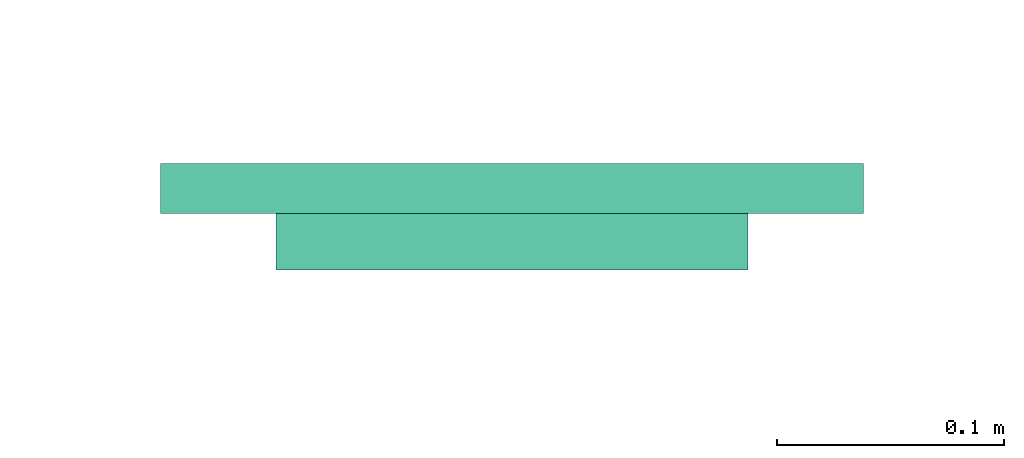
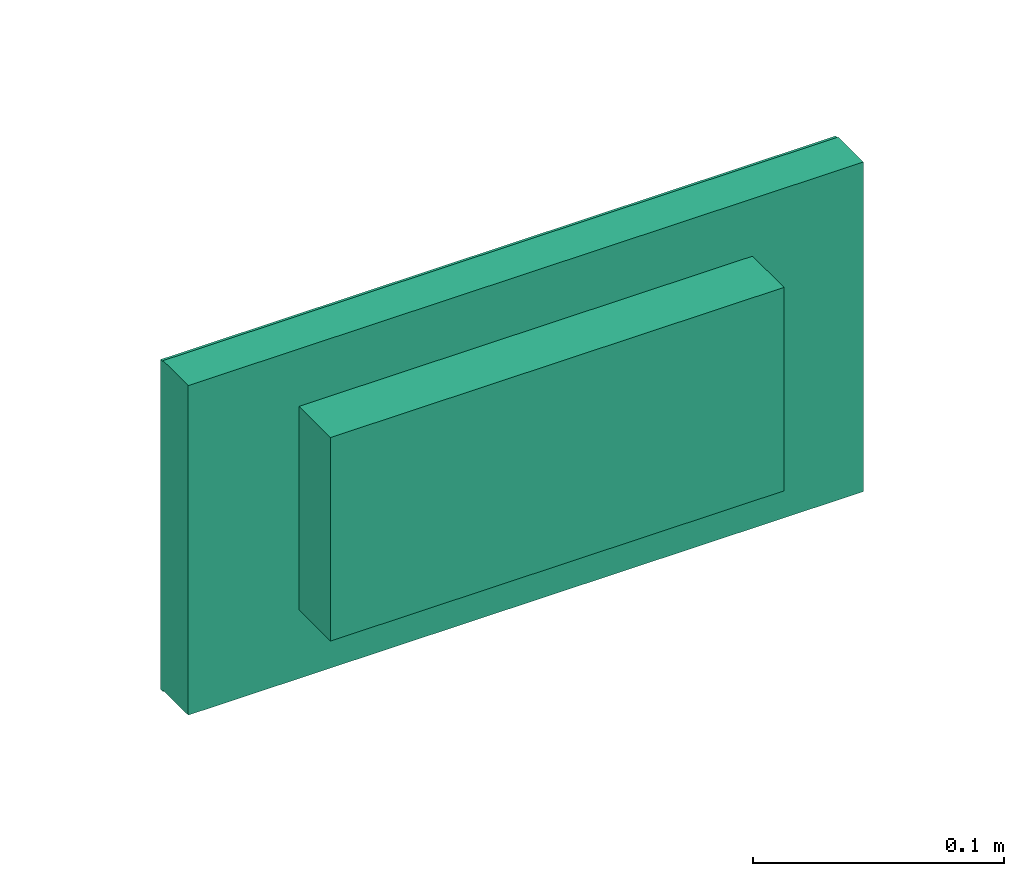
# One storey, part 48 of 51: 1 flow terminal.
"""IFC2X3 building model written with IfcOpenShell, lengths in millimetres."""

from ifc_helpers import new_model, entity, si_unit, converted_unit, derived_unit, direction, frame, origin_with_axes, place, context, subcontext, project, spatial, open_shell, surface_model, source, transform, mapped, type_object, element, save


model = new_model("IFC2X3")

# Units and contexts
model_context = context("Model", 3, precision=0.01, world=frame((0.0, 4.29681676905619e-09, 0.0)), true_north=direction((4.01073788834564e-13, 1.0)))
plan_context = context("Plan", 3, precision=0.01, world=frame((0.0, 4.29681676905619e-09, 0.0)), true_north=direction((4.01073788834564e-13, 1.0)))
body_context = subcontext(model_context, "Body", "Model", "MODEL_VIEW")
ifc_project = project(units=[converted_unit("PLANEANGLEUNIT", "DEGREE", entity("IfcPositiveLengthMeasure", 0.0174532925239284), si_unit("PLANEANGLEUNIT", "RADIAN"), dimensions=[0, 0, 0, 0, 0, 0, 0]), si_unit("AREAUNIT", "SQUARE_METRE"), si_unit("LENGTHUNIT", "METRE", prefix="MILLI"), si_unit("MASSUNIT", "GRAM", prefix="KILO"), si_unit("POWERUNIT", "WATT"), si_unit("PRESSUREUNIT", "PASCAL"), si_unit("FORCEUNIT", "NEWTON", prefix="KILO"), si_unit("ELECTRICVOLTAGEUNIT", "VOLT"), si_unit("ELECTRICCURRENTUNIT", "AMPERE"), si_unit("THERMODYNAMICTEMPERATUREUNIT", "DEGREE_CELSIUS"), si_unit("TIMEUNIT", "SECOND"), si_unit("VOLUMEUNIT", "CUBIC_METRE"), derived_unit("LINEARVELOCITYUNIT", [(si_unit("LENGTHUNIT", "METRE"), 1), (si_unit("TIMEUNIT", "SECOND"), -1)]), derived_unit("VOLUMETRICFLOWRATEUNIT", [(si_unit("VOLUMEUNIT", "CUBIC_METRE"), 1), (si_unit("TIMEUNIT", "SECOND"), -1)]), derived_unit("THERMALTRANSMITTANCEUNIT", [(si_unit("POWERUNIT", "WATT"), 1), (si_unit("THERMODYNAMICTEMPERATUREUNIT", "KELVIN"), -1), (si_unit("AREAUNIT", "SQUARE_METRE"), -1)]), derived_unit("SOUNDPRESSUREUNIT", [(si_unit("PRESSUREUNIT", "PASCAL"), 1)])], contexts=[model_context, plan_context])

# Site, building, storey
site_placement = place(None, frame((0.0, -4.29681676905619e-09, 0.0), z_axis=(0.0, 0.0, 1.0), x_axis=(1.0, 0.0, 0.0)))
site = spatial("IfcSite", under=ifc_project, at=site_placement, Name="ENGM", CompositionType="ELEMENT")
building_placement = place(site_placement, frame((0.0, 4.29681676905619e-09, 0.0), z_axis=(0.0, 0.0, 1.0), x_axis=(1.0, 0.0, 0.0)))
building = spatial("IfcBuilding", under=site, at=building_placement, Name="TI", CompositionType="ELEMENT")
storey_placement = place(building_placement, frame((0.0, 0.0, 210900.0), z_axis=(0.0, 0.0, 1.0), x_axis=(1.0, 0.0, 0.0)))
storey = spatial("IfcBuildingStorey", under=building, at=storey_placement, Name="Nivå F", CompositionType="ELEMENT", Elevation=210900.0)

# Flow terminal
light_fixture_type = type_object("IfcLightFixtureType", Name="IB7333 Zumtobel Puresign 150 AW NDA", PredefinedType="NOTDEFINED")
shared_shape = source(origin_with_axes(), body_context, "Body", "SurfaceModel", [
    surface_model("IfcShellBasedSurfaceModel", [(-81.53868, 69.0, 59.87741), (-54.46132, 69.0, 59.87741), (-54.46132, 69.0, -16.44284), (-27.10707, 69.0, -19.68761), (-68.0, 69.0, -60.58054), (-27.10707, 69.0, 10.91141), (-81.53868, 69.0, -16.44284), (-108.89293, 69.0, -19.68761), (-108.89293, 69.0, 10.91141), (-81.53868, 67.0, -16.44284), (-68.0, 67.0, -60.58054), (-54.46132, 67.0, -16.44284), (-108.89293, 67.0, -19.68761), (-108.89293, 67.0, 10.91141), (-27.10707, 67.0, -19.68761), (-81.53868, 67.0, 59.87741), (-54.46132, 67.0, 59.87741), (-27.10707, 67.0, 10.91141), (-128.62178, 69.0, -35.35156), (-135.61481, 69.0, -18.4689), (-117.49747, 69.0, -49.84904), (-138.0, 69.0, -0.35156), (-135.61481, 69.0, 17.76577), (-128.62178, 69.0, 34.64844), (-103.0, 69.0, -60.97334), (-86.11734, 69.0, -67.96637), (-68.0, 69.0, -70.35156), (-49.88267, 69.0, -67.96637), (-33.0, 69.0, -60.97334), (-117.49747, 69.0, 49.14591), (-103.0, 69.0, 60.27022), (-86.11734, 69.0, 67.26325), (-68.0, 69.0, 69.64844), (-49.88267, 69.0, 67.26325), (-33.0, 69.0, 60.27022), (-0.38519, 69.0, -18.4689), (-7.37822, 69.0, -35.35156), (2.0, 69.0, -0.35156), (-18.50252, 69.0, -49.84904), (-18.50252, 69.0, 49.14591), (-7.37822, 69.0, 34.64844), (-0.38519, 69.0, 17.76577), (-49.88267, 67.0, 67.26325), (-68.0, 67.0, 69.64844), (-33.0, 67.0, 60.27022), (-103.0, 67.0, 60.27022), (-86.11734, 67.0, 67.26325), (-0.38519, 67.0, 17.76577), (-7.37822, 67.0, 34.64844), (2.0, 67.0, -0.35156), (-18.50252, 67.0, 49.14591), (-0.38519, 67.0, -18.4689), (-7.37822, 67.0, -35.35156), (-18.50252, 67.0, -49.84904), (-117.49747, 67.0, 49.14591), (-128.62178, 67.0, 34.64844), (-135.61481, 67.0, 17.76577), (-138.0, 67.0, -0.35156), (-135.61481, 67.0, -18.4689), (-128.62178, 67.0, -35.35156), (-117.49747, 67.0, -49.84904), (-103.0, 67.0, -60.97334), (-33.0, 67.0, -60.97334), (-86.11734, 67.0, -67.96637), (-49.88267, 67.0, -67.96637), (-68.0, 67.0, -70.35156), (-155.0, 69.0, -80.35156), (29.54747, 69.0, -54.89348), (40.0, 69.0, -61.174), (155.0, 69.0, -80.35156), (-155.0, 69.0, 79.64844), (10.0, 69.0, 1.64844), (10.0, 69.0, 13.64844), (40.0, 69.0, 1.64844), (28.0, 69.0, 26.85954), (58.20469, 69.0, -7.19985), (68.0, 69.0, -46.35156), (68.0, 69.0, -14.57417), (110.0, 69.0, -46.35156), (110.0, 69.0, -34.35156), (80.0, 69.0, -2.93515), (80.0, 69.0, -34.35156), (155.0, 69.0, 79.64844), (28.0, 69.0, 13.64844), (88.85504, 69.0, 8.56146), (99.14496, 69.0, 14.73541), (78.60286, 69.0, 25.64844), (65.7082, 69.0, 25.64844), (38.37653, 69.0, 38.12548), (42.6718, 69.0, 36.64074), (40.0, 69.0, 21.92766), (29.87565, 69.0, 44.64844), (28.0, 69.0, 51.64844), (28.47704, 69.0, 55.2719), (29.87565, 69.0, 58.64844), (28.47704, 69.0, 48.02497), (35.0, 69.0, 39.52408), (32.1005, 69.0, 41.74894), (42.0, 69.0, 65.64844), (32.1005, 69.0, 61.54793), (35.0, 69.0, 63.77279), (38.37653, 69.0, 65.1714), (42.0, 69.0, 37.64844), (45.62347, 69.0, 38.12548), (46.0, 69.0, 37.64844), (49.0, 69.0, 39.52408), (85.39714, 69.0, 37.64844), (51.89949, 69.0, 41.74894), (54.12435, 69.0, 44.64844), (55.52296, 69.0, 48.02497), (51.89949, 69.0, 61.54793), (49.0, 69.0, 63.77279), (45.62347, 69.0, 65.1714), (55.52296, 69.0, 55.2719), (56.0, 69.0, 51.64844), (54.12435, 69.0, 58.64844), (155.0, 67.0, 79.64844), (-155.0, 67.0, 79.64844), (42.0, 67.0, 65.64844), (35.0, 67.0, 63.77279), (29.87565, 67.0, 58.64844), (32.1005, 67.0, 61.54793), (38.37653, 67.0, 65.1714), (28.47704, 67.0, 55.2719), (28.0, 67.0, 51.64844), (28.47704, 67.0, 48.02497), (28.0, 67.0, 26.85954), (38.37653, 67.0, 38.12548), (35.0, 67.0, 39.52408), (32.1005, 67.0, 41.74894), (29.87565, 67.0, 44.64844), (45.62347, 67.0, 65.1714), (49.0, 67.0, 63.77279), (51.89949, 67.0, 61.54793), (54.12435, 67.0, 58.64844), (85.39714, 67.0, 37.64844), (55.52296, 67.0, 55.2719), (56.0, 67.0, 51.64844), (45.62347, 67.0, 38.12548), (42.6718, 67.0, 36.64074), (46.0, 67.0, 37.64844), (42.0, 67.0, 37.64844), (49.0, 67.0, 39.52408), (54.12435, 67.0, 44.64844), (55.52296, 67.0, 48.02497), (51.89949, 67.0, 41.74894), (99.14496, 67.0, 14.73541), (-155.0, 67.0, -80.35156), (10.0, 67.0, 1.64844), (10.0, 67.0, 13.64844), (40.0, 67.0, 1.64844), (29.54747, 67.0, -54.89348), (155.0, 67.0, -80.35156), (40.0, 67.0, -61.174), (28.0, 67.0, 13.64844), (88.85504, 67.0, 8.56146), (78.60286, 67.0, 25.64844), (80.0, 67.0, -2.93515), (65.7082, 67.0, 25.64844), (110.0, 67.0, -34.35156), (40.0, 67.0, 21.92766), (58.20469, 67.0, -7.19985), (68.0, 67.0, -14.57417), (68.0, 67.0, -46.35156), (110.0, 67.0, -46.35156), (80.0, 67.0, -34.35156), (155.0, 67.0, -79.69684), (155.0, 67.0, 80.30316), (155.0, 47.0, -79.69684), (155.0, 47.0, 80.30316), (-155.0, 47.0, -79.69684), (-155.0, 47.0, 80.30316), (-155.0, 67.0, 80.30316), (-155.0, 67.0, -79.69684), (104.10041, 47.0, 52.4206), (104.10041, 47.0, -46.35156), (-104.10041, 47.0, 52.4206), (-104.10041, 47.0, -46.35156), (104.10041, 22.0, -46.35156), (104.10041, 22.0, 52.4206), (-104.10041, 22.0, -46.35156), (-104.10041, 22.0, 52.4206)], [open_shell([[[0, 1, 2]], [[2, 3, 4]], [[3, 2, 5]], [[6, 4, 7]], [[4, 6, 2]], [[6, 7, 8]], [[2, 6, 0]], [[9, 10, 11]], [[12, 9, 13]], [[9, 12, 10]], [[10, 14, 11]], [[15, 11, 16]], [[15, 9, 11]], [[17, 11, 14]], [[3, 5, 17]], [[17, 14, 3]], [[4, 3, 14]], [[14, 10, 4]], [[7, 4, 10]], [[10, 12, 7]], [[8, 7, 12]], [[12, 13, 8]], [[6, 8, 9]], [[13, 9, 8]], [[0, 6, 9]], [[9, 15, 0]], [[1, 0, 15]], [[15, 16, 1]], [[2, 1, 16]], [[16, 11, 2]], [[5, 2, 17]], [[11, 17, 2]], [[18, 19, 7]], [[7, 20, 18]], [[7, 19, 21]], [[22, 23, 8]], [[7, 21, 8]], [[6, 8, 0]], [[8, 21, 22]], [[20, 7, 24]], [[25, 24, 4]], [[26, 4, 27]], [[4, 26, 25]], [[7, 4, 24]], [[27, 4, 28]], [[3, 28, 4]], [[8, 23, 29]], [[30, 0, 8]], [[0, 31, 32]], [[31, 0, 30]], [[32, 33, 1]], [[2, 1, 5]], [[34, 1, 33]], [[32, 1, 0]], [[5, 1, 34]], [[3, 35, 36]], [[35, 3, 37]], [[36, 38, 3]], [[38, 28, 3]], [[39, 40, 5]], [[5, 41, 37]], [[41, 5, 40]], [[5, 37, 3]], [[39, 5, 34]], [[30, 8, 29]], [[42, 43, 16]], [[17, 44, 16]], [[16, 44, 42]], [[43, 15, 16]], [[15, 45, 13]], [[46, 15, 43]], [[15, 46, 45]], [[16, 11, 17]], [[17, 47, 48]], [[17, 49, 47]], [[48, 50, 17]], [[14, 51, 49]], [[52, 51, 14]], [[52, 14, 53]], [[14, 49, 17]], [[50, 44, 17]], [[45, 54, 13]], [[55, 56, 13]], [[57, 12, 13]], [[13, 56, 57]], [[9, 15, 13]], [[58, 59, 12]], [[60, 12, 59]], [[12, 57, 58]], [[12, 60, 61]], [[14, 10, 62]], [[53, 14, 62]], [[61, 63, 10]], [[64, 10, 65]], [[10, 64, 62]], [[65, 10, 63]], [[12, 61, 10]], [[13, 54, 55]], [[3, 4, 10]], [[10, 14, 3]], [[5, 3, 14]], [[14, 17, 5]], [[2, 5, 17]], [[17, 11, 2]], [[1, 2, 16]], [[11, 16, 2]], [[0, 1, 16]], [[16, 15, 0]], [[6, 0, 15]], [[15, 9, 6]], [[8, 6, 9]], [[9, 13, 8]], [[7, 8, 13]], [[13, 12, 7]], [[4, 7, 12]], [[12, 10, 4]], [[42, 33, 43]], [[44, 34, 42]], [[40, 50, 48]], [[44, 50, 39]], [[41, 48, 47]], [[42, 34, 33]], [[33, 32, 43]], [[41, 40, 48]], [[39, 50, 40]], [[39, 34, 44]], [[37, 41, 47]], [[47, 49, 37]], [[51, 35, 49]], [[52, 36, 51]], [[28, 53, 62]], [[52, 53, 38]], [[27, 62, 64]], [[52, 38, 36]], [[36, 35, 51]], [[26, 27, 64]], [[28, 62, 27]], [[28, 38, 53]], [[65, 26, 64]], [[49, 35, 37]], [[63, 25, 65]], [[61, 24, 63]], [[18, 60, 59]], [[61, 60, 20]], [[19, 59, 58]], [[63, 24, 25]], [[25, 26, 65]], [[19, 18, 59]], [[20, 60, 18]], [[20, 24, 61]], [[21, 19, 58]], [[58, 57, 21]], [[56, 22, 57]], [[55, 23, 56]], [[30, 54, 45]], [[55, 54, 29]], [[31, 45, 46]], [[55, 29, 23]], [[23, 22, 56]], [[32, 31, 46]], [[30, 45, 31]], [[30, 29, 54]], [[43, 32, 46]], [[57, 22, 21]], [[66, 24, 25]], [[24, 66, 20]], [[18, 20, 66]], [[66, 19, 18]], [[25, 26, 66]], [[28, 38, 67]], [[27, 28, 68]], [[26, 27, 69]], [[66, 26, 69]], [[21, 19, 66]], [[22, 21, 70]], [[67, 36, 35]], [[71, 37, 72]], [[41, 72, 37]], [[37, 71, 35]], [[73, 35, 71]], [[41, 40, 74]], [[21, 66, 70]], [[38, 36, 67]], [[67, 68, 28]], [[67, 73, 75]], [[76, 68, 77]], [[69, 78, 79]], [[69, 68, 78]], [[80, 79, 81]], [[68, 76, 78]], [[82, 69, 79]], [[68, 69, 27]], [[73, 67, 35]], [[74, 83, 72]], [[72, 41, 74]], [[84, 85, 79]], [[84, 80, 86]], [[86, 80, 87]], [[88, 89, 74]], [[84, 79, 80]], [[75, 73, 90]], [[82, 79, 85]], [[91, 74, 40]], [[92, 40, 39]], [[39, 93, 92]], [[94, 93, 39]], [[23, 70, 29]], [[40, 92, 95]], [[96, 74, 97]], [[91, 40, 95]], [[74, 91, 97]], [[74, 96, 88]], [[31, 30, 70]], [[98, 33, 32]], [[70, 32, 31]], [[30, 29, 70]], [[39, 99, 94]], [[39, 34, 99]], [[34, 100, 99]], [[100, 34, 33]], [[101, 100, 33]], [[32, 70, 82]], [[23, 22, 70]], [[89, 102, 103]], [[102, 89, 88]], [[89, 103, 104]], [[104, 105, 106]], [[107, 106, 105]], [[105, 104, 103]], [[106, 108, 109]], [[106, 107, 108]], [[110, 111, 82]], [[98, 101, 33]], [[112, 98, 82]], [[111, 112, 82]], [[113, 106, 114]], [[115, 82, 106]], [[82, 115, 110]], [[106, 113, 115]], [[114, 106, 109]], [[98, 32, 82]], [[106, 82, 85]], [[116, 117, 43]], [[43, 117, 46]], [[45, 46, 117]], [[117, 54, 45]], [[43, 42, 118]], [[119, 42, 44]], [[120, 121, 50]], [[44, 121, 119]], [[44, 50, 121]], [[119, 122, 42]], [[123, 120, 50]], [[123, 50, 124]], [[125, 124, 48]], [[54, 117, 55]], [[126, 127, 128]], [[126, 129, 130]], [[126, 128, 129]], [[130, 125, 48]], [[124, 50, 48]], [[117, 56, 55]], [[118, 131, 116]], [[118, 42, 122]], [[131, 132, 116]], [[116, 133, 134]], [[133, 116, 132]], [[135, 134, 136]], [[116, 134, 135]], [[135, 136, 137]], [[118, 116, 43]], [[138, 139, 140]], [[139, 138, 141]], [[139, 141, 127]], [[127, 126, 139]], [[138, 140, 142]], [[143, 135, 144]], [[142, 135, 145]], [[135, 142, 140]], [[135, 143, 145]], [[144, 135, 137]], [[116, 135, 146]], [[56, 117, 57]], [[57, 147, 58]], [[126, 48, 47]], [[148, 49, 51]], [[47, 49, 149]], [[150, 148, 51]], [[148, 149, 49]], [[51, 52, 151]], [[60, 59, 147]], [[61, 147, 63]], [[147, 61, 60]], [[59, 58, 147]], [[53, 62, 151]], [[65, 63, 147]], [[64, 65, 152]], [[62, 64, 153]], [[147, 152, 65]], [[117, 147, 57]], [[52, 53, 151]], [[154, 126, 149]], [[126, 47, 149]], [[155, 156, 157]], [[157, 156, 158]], [[146, 155, 159]], [[160, 150, 161]], [[162, 153, 163]], [[153, 151, 62]], [[163, 153, 164]], [[161, 150, 151]], [[157, 165, 159]], [[159, 164, 152]], [[116, 159, 152]], [[153, 152, 164]], [[159, 155, 157]], [[153, 64, 152]], [[51, 151, 150]], [[159, 116, 146]], [[130, 48, 126]], [[70, 66, 147]], [[147, 117, 70]], [[82, 70, 117]], [[117, 116, 82]], [[69, 82, 116]], [[116, 152, 69]], [[66, 69, 152]], [[152, 147, 66]], [[79, 78, 164]], [[164, 159, 79]], [[81, 79, 159]], [[159, 165, 81]], [[87, 80, 157]], [[157, 158, 87]], [[86, 87, 158]], [[158, 156, 86]], [[84, 86, 156]], [[156, 155, 84]], [[85, 84, 155]], [[155, 146, 85]], [[106, 85, 146]], [[146, 135, 106]], [[104, 106, 135]], [[135, 140, 104]], [[89, 104, 139]], [[140, 139, 104]], [[74, 89, 139]], [[139, 126, 74]], [[83, 74, 126]], [[126, 154, 83]], [[72, 83, 149]], [[154, 149, 83]], [[71, 72, 149]], [[149, 148, 71]], [[73, 71, 148]], [[148, 150, 73]], [[90, 73, 150]], [[150, 160, 90]], [[75, 90, 160]], [[160, 161, 75]], [[67, 75, 161]], [[161, 151, 67]], [[68, 67, 151]], [[151, 153, 68]], [[77, 68, 153]], [[153, 162, 77]], [[76, 77, 162]], [[162, 163, 76]], [[92, 125, 95]], [[95, 130, 91]], [[96, 97, 128]], [[129, 97, 91]], [[88, 96, 127]], [[125, 130, 95]], [[92, 124, 125]], [[96, 128, 127]], [[128, 97, 129]], [[91, 130, 129]], [[88, 127, 141]], [[141, 102, 88]], [[102, 138, 103]], [[103, 142, 105]], [[108, 107, 143]], [[145, 107, 105]], [[109, 108, 144]], [[142, 145, 105]], [[103, 138, 142]], [[109, 144, 137]], [[144, 108, 143]], [[107, 145, 143]], [[109, 137, 114]], [[141, 138, 102]], [[78, 76, 163]], [[163, 164, 78]], [[80, 81, 165]], [[165, 157, 80]], [[114, 136, 113]], [[113, 134, 115]], [[111, 110, 132]], [[133, 110, 115]], [[112, 111, 131]], [[136, 134, 113]], [[114, 137, 136]], [[111, 132, 131]], [[132, 110, 133]], [[115, 134, 133]], [[112, 131, 118]], [[118, 98, 112]], [[98, 122, 101]], [[101, 119, 100]], [[94, 99, 120]], [[121, 99, 100]], [[93, 94, 123]], [[119, 121, 100]], [[101, 122, 119]], [[93, 123, 124]], [[123, 94, 120]], [[99, 121, 120]], [[93, 124, 92]], [[118, 122, 98]], [[37, 47, 41]], [[41, 48, 40]], [[34, 39, 44]], [[50, 39, 40]], [[33, 34, 42]], [[47, 48, 41]], [[37, 49, 47]], [[34, 44, 42]], [[44, 39, 50]], [[40, 48, 50]], [[33, 42, 43]], [[43, 32, 33]], [[32, 46, 31]], [[31, 45, 30]], [[23, 29, 55]], [[54, 29, 30]], [[22, 23, 56]], [[45, 54, 30]], [[31, 46, 45]], [[22, 56, 57]], [[56, 23, 55]], [[29, 54, 55]], [[22, 57, 21]], [[43, 46, 32]], [[21, 58, 19]], [[19, 59, 18]], [[24, 20, 61]], [[60, 20, 18]], [[25, 24, 63]], [[58, 59, 19]], [[21, 57, 58]], [[24, 61, 63]], [[61, 20, 60]], [[18, 59, 60]], [[25, 63, 65]], [[65, 26, 25]], [[26, 64, 27]], [[27, 62, 28]], [[36, 38, 52]], [[53, 38, 28]], [[35, 36, 51]], [[62, 53, 28]], [[27, 64, 62]], [[35, 51, 49]], [[51, 36, 52]], [[38, 53, 52]], [[35, 49, 37]], [[65, 64, 26]], [[106, 86, 87]], [[86, 106, 85]], [[84, 86, 85]], [[87, 75, 90]], [[106, 87, 104]], [[89, 90, 74]], [[90, 89, 104]], [[73, 83, 90]], [[71, 72, 83]], [[83, 74, 90]], [[104, 87, 90]], [[77, 80, 81]], [[78, 76, 81]], [[78, 81, 79]], [[77, 81, 76]], [[73, 71, 83]], [[75, 77, 67]], [[77, 68, 67]], [[75, 80, 77]], [[75, 87, 80]], [[98, 112, 111]], [[110, 98, 111]], [[92, 101, 110]], [[113, 110, 115]], [[113, 92, 110]], [[101, 99, 100]], [[101, 98, 110]], [[101, 94, 99]], [[101, 92, 94]], [[94, 92, 93]], [[114, 109, 113]], [[109, 108, 107]], [[91, 109, 107]], [[105, 103, 102]], [[91, 107, 105]], [[91, 105, 102]], [[92, 91, 95]], [[92, 109, 91]], [[91, 96, 97]], [[102, 96, 91]], [[102, 88, 96]], [[109, 92, 113]], [[163, 164, 165]], [[163, 165, 162]], [[159, 165, 164]], [[162, 165, 157]], [[161, 151, 162]], [[151, 153, 162]], [[160, 161, 158]], [[148, 150, 154]], [[162, 157, 161]], [[161, 157, 158]], [[155, 146, 156]], [[158, 156, 135]], [[135, 156, 146]], [[158, 135, 140]], [[154, 150, 160]], [[126, 154, 160]], [[149, 148, 154]], [[160, 139, 126]], [[139, 160, 140]], [[160, 158, 140]], [[141, 138, 142]], [[130, 141, 142]], [[145, 143, 144]], [[130, 142, 145]], [[130, 145, 144]], [[128, 130, 129]], [[128, 127, 141]], [[130, 124, 125]], [[130, 128, 141]], [[120, 124, 130]], [[130, 144, 122]], [[144, 136, 133]], [[133, 136, 134]], [[118, 133, 132]], [[118, 144, 133]], [[132, 131, 118]], [[120, 122, 121]], [[123, 124, 120]], [[121, 122, 119]], [[130, 122, 120]], [[122, 144, 118]], [[137, 136, 144]], [[78, 79, 159]], [[159, 164, 78]], [[76, 78, 164]], [[164, 163, 76]], [[77, 76, 163]], [[163, 162, 77]], [[68, 77, 162]], [[162, 153, 68]], [[67, 68, 153]], [[153, 151, 67]], [[75, 67, 151]], [[151, 161, 75]], [[90, 75, 161]], [[161, 160, 90]], [[73, 90, 160]], [[160, 150, 73]], [[71, 73, 150]], [[150, 148, 71]], [[72, 71, 148]], [[148, 149, 72]], [[83, 72, 149]], [[149, 154, 83]], [[74, 83, 154]], [[154, 126, 74]], [[89, 74, 126]], [[126, 139, 89]], [[104, 89, 139]], [[139, 140, 104]], [[106, 104, 140]], [[140, 135, 106]], [[85, 106, 135]], [[135, 146, 85]], [[84, 85, 146]], [[146, 155, 84]], [[86, 84, 155]], [[155, 156, 86]], [[87, 86, 156]], [[156, 158, 87]], [[80, 87, 158]], [[158, 157, 80]], [[81, 80, 157]], [[157, 165, 81]], [[79, 81, 165]], [[165, 159, 79]], [[123, 93, 124]], [[120, 94, 123]], [[100, 121, 119]], [[120, 121, 99]], [[101, 119, 122]], [[123, 94, 93]], [[93, 92, 124]], [[101, 100, 119]], [[99, 121, 100]], [[99, 94, 120]], [[98, 101, 122]], [[122, 118, 98]], [[131, 112, 118]], [[132, 111, 131]], [[115, 133, 134]], [[132, 133, 110]], [[113, 134, 136]], [[132, 110, 111]], [[111, 112, 131]], [[114, 113, 136]], [[115, 134, 113]], [[115, 110, 133]], [[137, 114, 136]], [[118, 112, 98]], [[144, 109, 137]], [[143, 108, 144]], [[105, 145, 142]], [[143, 145, 107]], [[103, 142, 138]], [[144, 108, 109]], [[109, 114, 137]], [[103, 105, 142]], [[107, 145, 105]], [[107, 108, 143]], [[102, 103, 138]], [[138, 141, 102]], [[127, 88, 141]], [[128, 96, 127]], [[91, 129, 130]], [[128, 129, 97]], [[95, 130, 125]], [[128, 97, 96]], [[96, 88, 127]], [[92, 95, 125]], [[91, 130, 95]], [[91, 97, 129]], [[124, 92, 125]], [[141, 88, 102]], [[166, 167, 168]], [[169, 168, 167]], [[170, 171, 172]], [[172, 173, 170]], [[169, 174, 175]], [[174, 169, 176]], [[168, 175, 177]], [[175, 168, 169]], [[176, 171, 177]], [[171, 176, 169]], [[177, 170, 168]], [[170, 177, 171]], [[166, 168, 173]], [[170, 173, 168]], [[167, 166, 173]], [[173, 172, 167]], [[169, 167, 171]], [[172, 171, 167]], [[175, 174, 178]], [[179, 178, 174]], [[180, 181, 176]], [[176, 177, 180]], [[178, 179, 181]], [[181, 180, 178]], [[175, 178, 180]], [[180, 177, 175]], [[179, 174, 176]], [[176, 181, 179]]])]),
])
flow_terminal_placement = place(storey_placement, frame((608186.11221, 694077.35006, 2330.0), z_axis=(0.0, 0.0, 1.0), x_axis=(1.0, 0.0, 0.0)))
element("IfcFlowTerminal", 1, at=flow_terminal_placement, inside=storey, type_object=light_fixture_type, Name="IB7333 Zumtobel Puresign 150 AW NDA", context=body_context, shape_type="MappedRepresentation", body=[
    mapped(shared_shape, transform((0.0, 0.0, 0.0), scale=1.0)),
])

save(model, "model.ifc")
